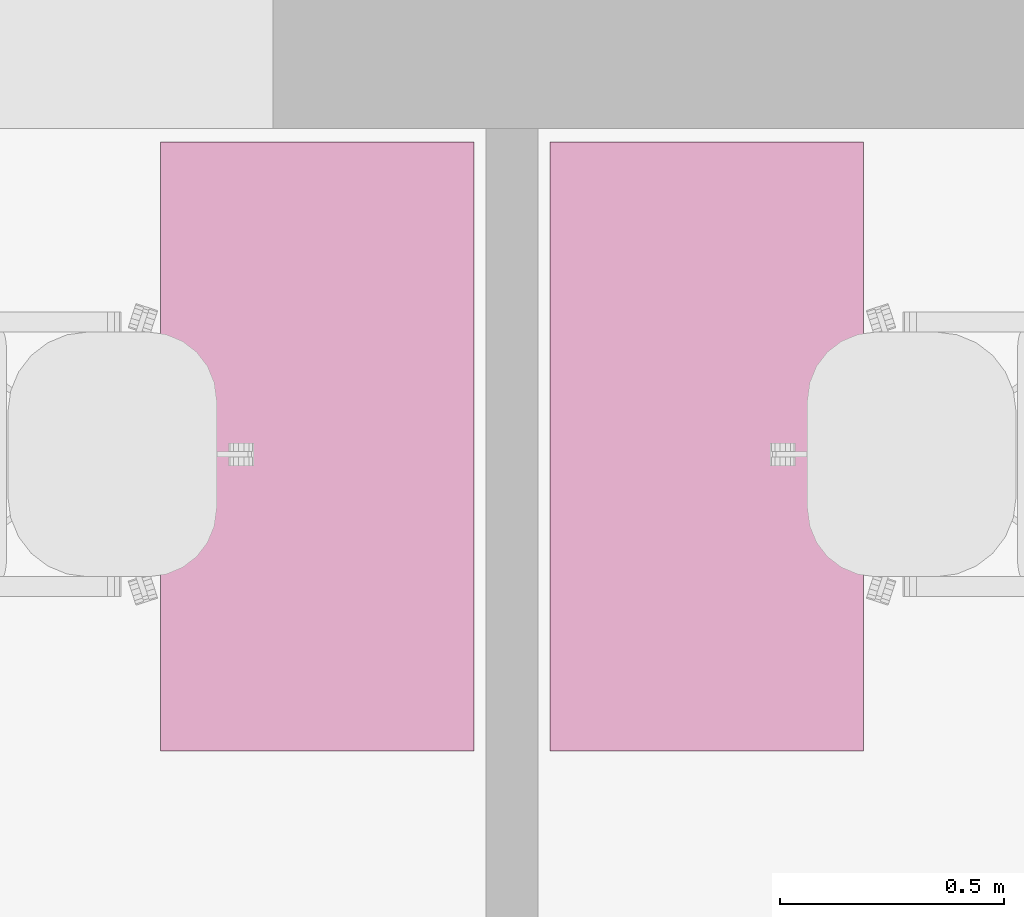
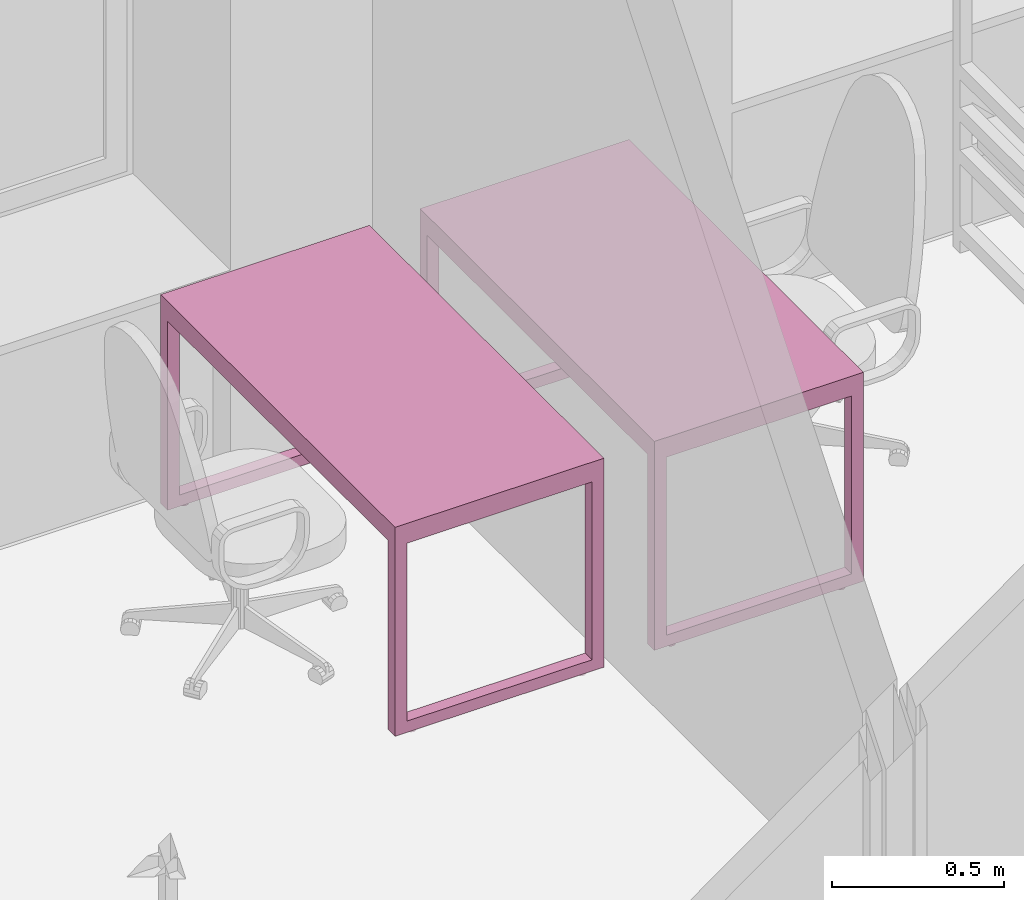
# One storey, part 36 of 46: 2 furnishings.
"""IFC2X3 building model written with IfcOpenShell, lengths in millimetres."""

from ifc_helpers import new_model, entity, si_unit, converted_unit, derived_unit, direction, frame, origin, place, context, subcontext, project, spatial, faceted_brep, source, transform, mapped, material, material_list, type_object, type_shapes, element, save


model = new_model("IFC2X3")

# Units and contexts
model_context = context("Model", 3, precision=0.01, world=origin(), true_north=direction((6.12303176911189e-17, 1.0)))
body_context = subcontext(model_context, "Body", "Model", "MODEL_VIEW")
ifc_project = project(units=[si_unit("LENGTHUNIT", "METRE", prefix="MILLI"), si_unit("AREAUNIT", "SQUARE_METRE"), si_unit("VOLUMEUNIT", "CUBIC_METRE"), converted_unit("PLANEANGLEUNIT", "DEGREE", entity("IfcRatioMeasure", 0.0174532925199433), si_unit("PLANEANGLEUNIT", "RADIAN"), dimensions=[0, 0, 0, 0, 0, 0, 0]), si_unit("MASSUNIT", "GRAM", prefix="KILO"), derived_unit("MASSDENSITYUNIT", [(si_unit("MASSUNIT", "GRAM", prefix="KILO"), 1), (si_unit("LENGTHUNIT", "METRE"), -3)]), si_unit("TIMEUNIT", "SECOND"), si_unit("FREQUENCYUNIT", "HERTZ"), si_unit("THERMODYNAMICTEMPERATUREUNIT", "DEGREE_CELSIUS"), derived_unit("THERMALTRANSMITTANCEUNIT", [(si_unit("MASSUNIT", "GRAM", prefix="KILO"), 1), (si_unit("THERMODYNAMICTEMPERATUREUNIT", "KELVIN"), -1), (si_unit("TIMEUNIT", "SECOND"), -3)]), derived_unit("VOLUMETRICFLOWRATEUNIT", [(si_unit("LENGTHUNIT", "METRE"), 3), (si_unit("TIMEUNIT", "SECOND"), -1)]), si_unit("ELECTRICCURRENTUNIT", "AMPERE"), si_unit("ELECTRICVOLTAGEUNIT", "VOLT"), si_unit("POWERUNIT", "WATT"), si_unit("FORCEUNIT", "NEWTON", prefix="KILO"), si_unit("ILLUMINANCEUNIT", "LUX"), si_unit("LUMINOUSFLUXUNIT", "LUMEN"), si_unit("LUMINOUSINTENSITYUNIT", "CANDELA"), derived_unit("USERDEFINED", [(si_unit("MASSUNIT", "GRAM", prefix="KILO"), -1), (si_unit("LENGTHUNIT", "METRE"), -2), (si_unit("TIMEUNIT", "SECOND"), 3), (si_unit("LUMINOUSFLUXUNIT", "LUMEN"), 1)]), derived_unit("LINEARVELOCITYUNIT", [(si_unit("LENGTHUNIT", "METRE"), 1), (si_unit("TIMEUNIT", "SECOND"), -1)]), si_unit("PRESSUREUNIT", "PASCAL"), derived_unit("USERDEFINED", [(si_unit("LENGTHUNIT", "METRE"), -2), (si_unit("MASSUNIT", "GRAM", prefix="KILO"), 1), (si_unit("TIMEUNIT", "SECOND"), -2)]), derived_unit("LINEARFORCEUNIT", [(si_unit("MASSUNIT", "GRAM", prefix="KILO"), 1), (si_unit("LENGTHUNIT", "METRE"), 1), (si_unit("TIMEUNIT", "SECOND"), -2), (si_unit("LENGTHUNIT", "METRE"), -1)]), derived_unit("PLANARFORCEUNIT", [(si_unit("MASSUNIT", "GRAM", prefix="KILO"), 1), (si_unit("LENGTHUNIT", "METRE"), 1), (si_unit("TIMEUNIT", "SECOND"), -2), (si_unit("LENGTHUNIT", "METRE"), -2)])], contexts=[model_context])

# Site, building, storey, space
site_placement = place(None, origin())
site = spatial("IfcSite", under=ifc_project, at=site_placement, Name="Default", CompositionType="ELEMENT")
building_placement = place(site_placement, origin())
building = spatial("IfcBuilding", under=site, at=building_placement, Name="SMA ARH", CompositionType="ELEMENT")
storey_placement = place(building_placement, frame((0.0, 0.0, 9910.0)))
storey = spatial("IfcBuildingStorey", under=building, at=storey_placement, Name="4 Korrus", CompositionType="ELEMENT", Elevation=9909.9999999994)
space_1_placement = place(storey_placement, origin())
space_1 = spatial("IfcSpace", under=storey, at=space_1_placement, Name="4-24", CompositionType="ELEMENT", InteriorOrExteriorSpace="INTERNAL")

# Furnishing
ifc_material = material(Name="<Unnamed>")
ifc_material_list_1 = material_list([ifc_material, ifc_material])
furniture_type_1 = type_object("IfcFurnitureType", Name="kirjutuslaud 1360x700mm:kirjutuslaud 1360x700mm", material=ifc_material_list_1)
shared_shape_1 = source(origin(), body_context, "Body", "Brep", [
    faceted_brep([(680.0, -350.0, 720.0), (680.0, 350.0, 720.0), (680.0, 350.0, 750.0), (680.0, -350.0, 750.0), (-680.0, -350.0, 720.0), (-680.0, -350.0, 750.0), (-680.0, 350.0, 750.0), (-680.0, 350.0, 720.0)], [[[0, 1, 2, 3]], [[4, 5, 6, 7]], [[1, 0, 4, 7]], [[2, 1, 7, 6]], [[3, 2, 6, 5]], [[0, 3, 5, 4]]]),
    faceted_brep([(-640.0, -310.0, 680.0), (-640.0, 310.0, 680.0), (-640.0, 310.0, 720.0), (-640.0, -310.0, 720.0), (-680.0, -350.0, 720.0), (-680.0, 350.0, 720.0), (-680.0, 350.0, 10.0), (-680.0, -350.0, 10.0), (-680.0, 310.0, 680.0), (-680.0, -310.0, 680.0), (-680.0, -310.0, 50.0), (-680.0, 310.0, 50.0), (-640.0, -350.0, 10.0), (-640.0, -350.0, 680.0), (640.0, -350.0, 680.0), (640.0, -350.0, 10.0), (680.0, -350.0, 10.0), (680.0, -350.0, 720.0), (-640.0, 350.0, 10.0), (680.0, 350.0, 720.0), (680.0, 350.0, 10.0), (640.0, 350.0, 10.0), (640.0, 350.0, 680.0), (-640.0, 350.0, 680.0), (640.0, 310.0, 720.0), (640.0, -310.0, 720.0), (-640.0, 310.0, 50.0), (-640.0, -310.0, 50.0), (640.0, -310.0, 680.0), (640.0, 310.0, 680.0), (680.0, 310.0, 680.0), (680.0, 310.0, 50.0), (680.0, -310.0, 50.0), (680.0, -310.0, 680.0), (640.0, -310.0, 50.0), (640.0, 310.0, 50.0)], [[[0, 1, 2, 3]], [[4, 5, 6, 7], [8, 9, 10, 11]], [[4, 7, 12, 13, 14, 15, 16, 17]], [[18, 12, 7, 6]], [[6, 5, 19, 20, 21, 22, 23, 18]], [[19, 5, 4, 17], [2, 24, 25, 3]], [[26, 1, 8, 11]], [[27, 26, 11, 10]], [[0, 27, 10, 9]], [[1, 0, 9, 8]], [[14, 13, 0, 28]], [[24, 2, 1, 29]], [[3, 25, 28, 0]], [[17, 16, 20, 19], [30, 31, 32, 33]], [[21, 15, 14, 28, 34, 35, 29, 22]], [[20, 16, 15, 21]], [[31, 30, 29, 35]], [[32, 31, 35, 34]], [[33, 32, 34, 28]], [[30, 33, 28, 29]], [[29, 28, 25, 24]], [[29, 1, 23, 22]], [[12, 18, 23, 1, 26, 27, 0, 13]]]),
    faceted_brep([(-663.729456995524, -270.466136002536, 0.0), (-659.847171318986, -269.955023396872, 0.0), (-655.964885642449, -270.466136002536, 0.0), (-652.347171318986, -271.964642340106, 0.0), (-649.240569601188, -274.348421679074, 0.0), (-646.85679026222, -277.455023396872, 0.0), (-645.35828392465, -281.072737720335, 0.0), (-644.847171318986, -284.955023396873, 0.0), (-645.35828392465, -288.83730907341, 0.0), (-646.85679026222, -292.455023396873, 0.0), (-649.240569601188, -295.561625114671, 0.0), (-652.347171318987, -297.945404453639, 0.0), (-655.964885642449, -299.443910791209, 0.0), (-659.847171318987, -299.955023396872, 0.0), (-663.729456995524, -299.443910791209, 0.0), (-667.347171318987, -297.945404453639, 0.0), (-670.453773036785, -295.561625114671, 0.0), (-672.837552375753, -292.455023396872, 0.0), (-674.336058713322, -288.83730907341, 0.0), (-674.847171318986, -284.955023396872, 0.0), (-674.336058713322, -281.072737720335, 0.0), (-672.837552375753, -277.455023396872, 0.0), (-670.453773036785, -274.348421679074, 0.0), (-667.347171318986, -271.964642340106, 0.0), (-655.964885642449, -299.443910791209, 10.0), (-652.347171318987, -297.945404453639, 10.0), (-649.240569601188, -295.561625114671, 10.0), (-646.85679026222, -292.455023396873, 10.0), (-645.35828392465, -288.83730907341, 10.0), (-644.847171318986, -284.955023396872, 10.0), (-645.35828392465, -281.072737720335, 10.0), (-646.85679026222, -277.455023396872, 10.0), (-649.240569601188, -274.348421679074, 10.0), (-652.347171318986, -271.964642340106, 10.0), (-655.964885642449, -270.466136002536, 10.0), (-659.847171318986, -269.955023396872, 10.0), (-663.729456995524, -270.466136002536, 10.0), (-667.347171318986, -271.964642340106, 10.0), (-670.453773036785, -274.348421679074, 10.0), (-672.837552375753, -277.455023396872, 10.0), (-674.336058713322, -281.072737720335, 10.0), (-674.847171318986, -284.955023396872, 10.0), (-674.336058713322, -288.83730907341, 10.0), (-672.837552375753, -292.455023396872, 10.0), (-670.453773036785, -295.561625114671, 10.0), (-667.347171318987, -297.945404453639, 10.0), (-663.729456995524, -299.443910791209, 10.0), (-659.847171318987, -299.955023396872, 10.0)], [[[0, 1, 2, 3, 4, 5, 6, 7, 8, 9, 10, 11, 12, 13, 14, 15, 16, 17, 18, 19, 20, 21, 22, 23]], [[24, 25, 26, 27, 28, 29, 30, 31, 32, 33, 34, 35, 36, 37, 38, 39, 40, 41, 42, 43, 44, 45, 46, 47]], [[18, 42, 41, 19]], [[17, 43, 42, 18]], [[45, 44, 16, 15]], [[17, 16, 44, 43]], [[46, 45, 15, 14]], [[47, 46, 14, 13]], [[12, 24, 47, 13]], [[11, 25, 24, 12]], [[27, 26, 10, 9]], [[11, 10, 26, 25]], [[28, 27, 9, 8]], [[29, 28, 8, 7]], [[6, 30, 29, 7]], [[5, 31, 30, 6]], [[33, 32, 4, 3]], [[5, 4, 32, 31]], [[34, 33, 3, 2]], [[35, 34, 2, 1]], [[0, 36, 35, 1]], [[23, 37, 36, 0]], [[39, 38, 22, 21]], [[23, 22, 38, 37]], [[40, 39, 21, 20]], [[41, 40, 20, 19]]]),
    faceted_brep([(-655.964885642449, 270.466136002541, 10.0), (-652.347171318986, 271.964642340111, 10.0), (-649.240569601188, 274.348421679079, 10.0), (-646.85679026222, 277.455023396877, 10.0), (-645.35828392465, 281.07273772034, 10.0), (-644.847171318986, 284.955023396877, 10.0), (-645.35828392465, 288.837309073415, 10.0), (-646.85679026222, 292.455023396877, 10.0), (-649.240569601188, 295.561625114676, 10.0), (-652.347171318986, 297.945404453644, 10.0), (-655.964885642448, 299.443910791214, 10.0), (-659.847171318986, 299.955023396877, 10.0), (-663.729456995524, 299.443910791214, 10.0), (-667.347171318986, 297.945404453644, 10.0), (-670.453773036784, 295.561625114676, 10.0), (-672.837552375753, 292.455023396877, 10.0), (-674.336058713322, 288.837309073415, 10.0), (-674.847171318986, 284.955023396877, 10.0), (-674.336058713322, 281.07273772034, 10.0), (-672.837552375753, 277.455023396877, 10.0), (-670.453773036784, 274.348421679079, 10.0), (-667.347171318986, 271.964642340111, 10.0), (-663.729456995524, 270.466136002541, 10.0), (-659.847171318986, 269.955023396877, 10.0), (-655.964885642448, 299.443910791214, 0.0), (-652.347171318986, 297.945404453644, 0.0), (-649.240569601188, 295.561625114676, 0.0), (-646.85679026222, 292.455023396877, 0.0), (-645.35828392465, 288.837309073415, 0.0), (-644.847171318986, 284.955023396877, 0.0), (-645.35828392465, 281.07273772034, 0.0), (-646.85679026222, 277.455023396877, 0.0), (-649.240569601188, 274.348421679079, 0.0), (-652.347171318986, 271.964642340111, 0.0), (-655.964885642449, 270.466136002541, 0.0), (-659.847171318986, 269.955023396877, 0.0), (-663.729456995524, 270.466136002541, 0.0), (-667.347171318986, 271.964642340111, 0.0), (-670.453773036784, 274.348421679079, 0.0), (-672.837552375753, 277.455023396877, 0.0), (-674.336058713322, 281.07273772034, 0.0), (-674.847171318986, 284.955023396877, 0.0), (-674.336058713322, 288.837309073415, 0.0), (-672.837552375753, 292.455023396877, 0.0), (-670.453773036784, 295.561625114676, 0.0), (-667.347171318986, 297.945404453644, 0.0), (-663.729456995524, 299.443910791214, 0.0), (-659.847171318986, 299.955023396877, 0.0)], [[[0, 1, 2, 3, 4, 5, 6, 7, 8, 9, 10, 11, 12, 13, 14, 15, 16, 17, 18, 19, 20, 21, 22, 23]], [[24, 25, 26, 27, 28, 29, 30, 31, 32, 33, 34, 35, 36, 37, 38, 39, 40, 41, 42, 43, 44, 45, 46, 47]], [[40, 18, 17, 41]], [[39, 19, 18, 40]], [[21, 20, 38, 37]], [[39, 38, 20, 19]], [[22, 21, 37, 36]], [[23, 22, 36, 35]], [[34, 0, 23, 35]], [[33, 1, 0, 34]], [[3, 2, 32, 31]], [[33, 32, 2, 1]], [[4, 3, 31, 30]], [[5, 4, 30, 29]], [[28, 6, 5, 29]], [[27, 7, 6, 28]], [[9, 8, 26, 25]], [[27, 26, 8, 7]], [[10, 9, 25, 24]], [[11, 10, 24, 47]], [[46, 12, 11, 47]], [[45, 13, 12, 46]], [[15, 14, 44, 43]], [[45, 44, 14, 13]], [[16, 15, 43, 42]], [[17, 16, 42, 41]]]),
    faceted_brep([(656.270543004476, -270.466136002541, 0.0), (660.152828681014, -269.955023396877, 0.0), (664.035114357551, -270.466136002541, 0.0), (667.652828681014, -271.96464234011, 0.0), (670.759430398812, -274.348421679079, 0.0), (673.14320973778, -277.455023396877, 0.0), (674.64171607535, -281.072737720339, 0.0), (675.152828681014, -284.955023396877, 0.0), (674.64171607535, -288.837309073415, 0.0), (673.14320973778, -292.455023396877, 0.0), (670.759430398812, -295.561625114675, 0.0), (667.652828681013, -297.945404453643, 0.0), (664.035114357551, -299.443910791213, 0.0), (660.152828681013, -299.955023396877, 0.0), (656.270543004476, -299.443910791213, 0.0), (652.652828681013, -297.945404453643, 0.0), (649.546226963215, -295.561625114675, 0.0), (647.162447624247, -292.455023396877, 0.0), (645.663941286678, -288.837309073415, 0.0), (645.152828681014, -284.955023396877, 0.0), (645.663941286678, -281.072737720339, 0.0), (647.162447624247, -277.455023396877, 0.0), (649.546226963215, -274.348421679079, 0.0), (652.652828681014, -271.96464234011, 0.0), (664.035114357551, -299.443910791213, 10.0), (667.652828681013, -297.945404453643, 10.0), (670.759430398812, -295.561625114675, 10.0), (673.14320973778, -292.455023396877, 10.0), (674.64171607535, -288.837309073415, 10.0), (675.152828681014, -284.955023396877, 10.0), (674.64171607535, -281.072737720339, 10.0), (673.14320973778, -277.455023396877, 10.0), (670.759430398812, -274.348421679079, 10.0), (667.652828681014, -271.96464234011, 10.0), (664.035114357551, -270.466136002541, 10.0), (660.152828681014, -269.955023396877, 10.0), (656.270543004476, -270.466136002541, 10.0), (652.652828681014, -271.96464234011, 10.0), (649.546226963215, -274.348421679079, 10.0), (647.162447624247, -277.455023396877, 10.0), (645.663941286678, -281.072737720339, 10.0), (645.152828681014, -284.955023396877, 10.0), (645.663941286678, -288.837309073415, 10.0), (647.162447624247, -292.455023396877, 10.0), (649.546226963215, -295.561625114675, 10.0), (652.652828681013, -297.945404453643, 10.0), (656.270543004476, -299.443910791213, 10.0), (660.152828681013, -299.955023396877, 10.0)], [[[0, 1, 2, 3, 4, 5, 6, 7, 8, 9, 10, 11, 12, 13, 14, 15, 16, 17, 18, 19, 20, 21, 22, 23]], [[24, 25, 26, 27, 28, 29, 30, 31, 32, 33, 34, 35, 36, 37, 38, 39, 40, 41, 42, 43, 44, 45, 46, 47]], [[18, 42, 41, 19]], [[17, 43, 42, 18]], [[45, 44, 16, 15]], [[17, 16, 44, 43]], [[46, 45, 15, 14]], [[47, 46, 14, 13]], [[12, 24, 47, 13]], [[11, 25, 24, 12]], [[27, 26, 10, 9]], [[11, 10, 26, 25]], [[28, 27, 9, 8]], [[29, 28, 8, 7]], [[6, 30, 29, 7]], [[5, 31, 30, 6]], [[33, 32, 4, 3]], [[5, 4, 32, 31]], [[34, 33, 3, 2]], [[35, 34, 2, 1]], [[0, 36, 35, 1]], [[23, 37, 36, 0]], [[39, 38, 22, 21]], [[23, 22, 38, 37]], [[40, 39, 21, 20]], [[41, 40, 20, 19]]]),
    faceted_brep([(664.035114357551, 270.466136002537, 10.0), (667.652828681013, 271.964642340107, 10.0), (670.759430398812, 274.348421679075, 10.0), (673.14320973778, 277.455023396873, 10.0), (674.64171607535, 281.072737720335, 10.0), (675.152828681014, 284.955023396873, 10.0), (674.64171607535, 288.837309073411, 10.0), (673.14320973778, 292.455023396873, 10.0), (670.759430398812, 295.561625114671, 10.0), (667.652828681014, 297.94540445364, 10.0), (664.035114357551, 299.443910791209, 10.0), (660.152828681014, 299.955023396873, 10.0), (656.270543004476, 299.443910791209, 10.0), (652.652828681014, 297.94540445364, 10.0), (649.546226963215, 295.561625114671, 10.0), (647.162447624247, 292.455023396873, 10.0), (645.663941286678, 288.837309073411, 10.0), (645.152828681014, 284.955023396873, 10.0), (645.663941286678, 281.072737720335, 10.0), (647.162447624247, 277.455023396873, 10.0), (649.546226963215, 274.348421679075, 10.0), (652.652828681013, 271.964642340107, 10.0), (656.270543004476, 270.466136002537, 10.0), (660.152828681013, 269.955023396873, 10.0), (664.035114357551, 299.443910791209, 0.0), (667.652828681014, 297.94540445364, 0.0), (670.759430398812, 295.561625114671, 0.0), (673.14320973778, 292.455023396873, 0.0), (674.64171607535, 288.837309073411, 0.0), (675.152828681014, 284.955023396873, 0.0), (674.64171607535, 281.072737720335, 0.0), (673.14320973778, 277.455023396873, 0.0), (670.759430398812, 274.348421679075, 0.0), (667.652828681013, 271.964642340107, 0.0), (664.035114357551, 270.466136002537, 0.0), (660.152828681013, 269.955023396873, 0.0), (656.270543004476, 270.466136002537, 0.0), (652.652828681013, 271.964642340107, 0.0), (649.546226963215, 274.348421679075, 0.0), (647.162447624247, 277.455023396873, 0.0), (645.663941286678, 281.072737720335, 0.0), (645.152828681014, 284.955023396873, 0.0), (645.663941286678, 288.837309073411, 0.0), (647.162447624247, 292.455023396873, 0.0), (649.546226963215, 295.561625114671, 0.0), (652.652828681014, 297.94540445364, 0.0), (656.270543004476, 299.443910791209, 0.0), (660.152828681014, 299.955023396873, 0.0)], [[[0, 1, 2, 3, 4, 5, 6, 7, 8, 9, 10, 11, 12, 13, 14, 15, 16, 17, 18, 19, 20, 21, 22, 23]], [[24, 25, 26, 27, 28, 29, 30, 31, 32, 33, 34, 35, 36, 37, 38, 39, 40, 41, 42, 43, 44, 45, 46, 47]], [[40, 18, 17, 41]], [[39, 19, 18, 40]], [[21, 20, 38, 37]], [[39, 38, 20, 19]], [[22, 21, 37, 36]], [[23, 22, 36, 35]], [[34, 0, 23, 35]], [[33, 1, 0, 34]], [[3, 2, 32, 31]], [[33, 32, 2, 1]], [[4, 3, 31, 30]], [[5, 4, 30, 29]], [[28, 6, 5, 29]], [[27, 7, 6, 28]], [[9, 8, 26, 25]], [[27, 26, 8, 7]], [[10, 9, 25, 24]], [[11, 10, 24, 47]], [[46, 12, 11, 47]], [[45, 13, 12, 46]], [[15, 14, 44, 43]], [[45, 44, 14, 13]], [[16, 15, 43, 42]], [[17, 16, 42, 41]]]),
])
type_shapes(furniture_type_1, [shared_shape_1])
furnishing_1_placement = place(space_1_placement, frame((19678.0, 11790.0, 0.0), z_axis=(0.0, 0.0, 1.0), x_axis=(0.0, 1.0, 0.0)))
element("IfcFurnishingElement", 1, at=furnishing_1_placement, inside=space_1, type_object=furniture_type_1, Name="kirjutuslaud 1360x700mm:kirjutuslaud 1360x700mm", ObjectType="kirjutuslaud 1360x700mm:kirjutuslaud 1360x700mm", context=body_context, shape_type="MappedRepresentation", body=[
    mapped(shared_shape_1, transform((0.0, 0.0, 0.0), scale=1.0)),
])

# Space
space_2_placement = place(storey_placement, origin())
space_2 = spatial("IfcSpace", under=storey, at=space_2_placement, Name="4-23", CompositionType="ELEMENT", InteriorOrExteriorSpace="INTERNAL")

# Furnishing
ifc_material_list_2 = material_list([ifc_material, ifc_material])
furniture_type_2 = type_object("IfcFurnitureType", Name="kirjutuslaud 1360x700mm:kirjutuslaud 1360x700mm", material=ifc_material_list_2)
shared_shape_2 = source(origin(), body_context, "Body", "Brep", [
    faceted_brep([(680.0, 350.0, 720.0), (680.0, 350.0, 750.0), (680.0, -350.0, 750.0), (680.0, -350.0, 720.0), (-680.0, 350.0, 720.0), (-680.0, -350.0, 720.0), (-680.0, -350.0, 750.0), (-680.0, 350.0, 750.0)], [[[0, 1, 2, 3]], [[4, 5, 6, 7]], [[3, 5, 4, 0]], [[2, 6, 5, 3]], [[1, 7, 6, 2]], [[0, 4, 7, 1]]]),
    faceted_brep([(-640.0, 310.0, 680.0), (-640.0, 310.0, 720.0), (-640.0, -310.0, 720.0), (-640.0, -310.0, 680.0), (-680.0, 350.0, 720.0), (-680.0, 350.0, 10.0), (-680.0, -350.0, 10.0), (-680.0, -350.0, 720.0), (-680.0, -310.0, 680.0), (-680.0, -310.0, 50.0), (-680.0, 310.0, 50.0), (-680.0, 310.0, 680.0), (680.0, 350.0, 720.0), (680.0, 350.0, 10.0), (640.0, 350.0, 10.0), (640.0, 350.0, 680.0), (-640.0, 350.0, 680.0), (-640.0, 350.0, 10.0), (-640.0, -350.0, 10.0), (-640.0, -350.0, 680.0), (640.0, -350.0, 680.0), (640.0, -350.0, 10.0), (680.0, -350.0, 10.0), (680.0, -350.0, 720.0), (640.0, 310.0, 720.0), (640.0, -310.0, 720.0), (-640.0, -310.0, 50.0), (-640.0, 310.0, 50.0), (640.0, -310.0, 680.0), (640.0, 310.0, 680.0), (680.0, -310.0, 680.0), (680.0, 310.0, 680.0), (680.0, 310.0, 50.0), (680.0, -310.0, 50.0), (640.0, -310.0, 50.0), (640.0, 310.0, 50.0)], [[[0, 1, 2, 3]], [[4, 5, 6, 7], [8, 9, 10, 11]], [[4, 12, 13, 14, 15, 16, 17, 5]], [[18, 6, 5, 17]], [[6, 18, 19, 20, 21, 22, 23, 7]], [[2, 1, 24, 25], [23, 12, 4, 7]], [[26, 9, 8, 3]], [[27, 10, 9, 26]], [[0, 11, 10, 27]], [[3, 8, 11, 0]], [[28, 20, 19, 3]], [[25, 28, 3, 2]], [[1, 0, 29, 24]], [[12, 23, 22, 13], [30, 31, 32, 33]], [[21, 20, 28, 34, 35, 29, 15, 14]], [[22, 21, 14, 13]], [[33, 34, 28, 30]], [[32, 35, 34, 33]], [[31, 29, 35, 32]], [[30, 28, 29, 31]], [[28, 25, 24, 29]], [[15, 29, 0, 16]], [[17, 16, 0, 27, 26, 3, 19, 18]]], outer=[[True], [True, False], [True], [True], [True], [False, True], [True], [True], [True], [True], [True], [True], [True], [True, False], [True], [True], [True], [True], [True], [True], [True], [True], [True]]),
    faceted_brep([(-655.964885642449, 270.466136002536, 0.0), (-659.847171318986, 269.955023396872, 0.0), (-663.729456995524, 270.466136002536, 0.0), (-667.347171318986, 271.964642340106, 0.0), (-670.453773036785, 274.348421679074, 0.0), (-672.837552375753, 277.455023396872, 0.0), (-674.336058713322, 281.072737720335, 0.0), (-674.847171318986, 284.955023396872, 0.0), (-674.336058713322, 288.83730907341, 0.0), (-672.837552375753, 292.455023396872, 0.0), (-670.453773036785, 295.561625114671, 0.0), (-667.347171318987, 297.945404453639, 0.0), (-663.729456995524, 299.443910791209, 0.0), (-659.847171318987, 299.955023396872, 0.0), (-655.964885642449, 299.443910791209, 0.0), (-652.347171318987, 297.945404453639, 0.0), (-649.240569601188, 295.561625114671, 0.0), (-646.85679026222, 292.455023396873, 0.0), (-645.35828392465, 288.83730907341, 0.0), (-644.847171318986, 284.955023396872, 0.0), (-645.35828392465, 281.072737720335, 0.0), (-646.85679026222, 277.455023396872, 0.0), (-649.240569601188, 274.348421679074, 0.0), (-652.347171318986, 271.964642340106, 0.0), (-649.240569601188, 295.561625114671, 10.0), (-652.347171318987, 297.945404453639, 10.0), (-655.964885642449, 299.443910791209, 10.0), (-659.847171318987, 299.955023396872, 10.0), (-663.729456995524, 299.443910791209, 10.0), (-667.347171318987, 297.945404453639, 10.0), (-670.453773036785, 295.561625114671, 10.0), (-672.837552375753, 292.455023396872, 10.0), (-674.336058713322, 288.83730907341, 10.0), (-674.847171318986, 284.955023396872, 10.0), (-674.336058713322, 281.072737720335, 10.0), (-672.837552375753, 277.455023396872, 10.0), (-670.453773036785, 274.348421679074, 10.0), (-667.347171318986, 271.964642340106, 10.0), (-663.729456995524, 270.466136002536, 10.0), (-659.847171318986, 269.955023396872, 10.0), (-655.964885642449, 270.466136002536, 10.0), (-652.347171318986, 271.964642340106, 10.0), (-649.240569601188, 274.348421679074, 10.0), (-646.85679026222, 277.455023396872, 10.0), (-645.35828392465, 281.072737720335, 10.0), (-644.847171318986, 284.955023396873, 10.0), (-645.35828392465, 288.83730907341, 10.0), (-646.85679026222, 292.455023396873, 10.0)], [[[0, 1, 2, 3, 4, 5, 6, 7, 8, 9, 10, 11, 12, 13, 14, 15, 16, 17, 18, 19, 20, 21, 22, 23]], [[24, 25, 26, 27, 28, 29, 30, 31, 32, 33, 34, 35, 36, 37, 38, 39, 40, 41, 42, 43, 44, 45, 46, 47]], [[7, 33, 32, 8]], [[8, 32, 31, 9]], [[11, 10, 30, 29]], [[30, 10, 9, 31]], [[12, 11, 29, 28]], [[12, 28, 27, 13]], [[13, 27, 26, 14]], [[14, 26, 25, 15]], [[17, 16, 24, 47]], [[24, 16, 15, 25]], [[18, 17, 47, 46]], [[18, 46, 45, 19]], [[19, 45, 44, 20]], [[20, 44, 43, 21]], [[23, 22, 42, 41]], [[42, 22, 21, 43]], [[0, 23, 41, 40]], [[0, 40, 39, 1]], [[1, 39, 38, 2]], [[2, 38, 37, 3]], [[5, 4, 36, 35]], [[36, 4, 3, 37]], [[6, 5, 35, 34]], [[6, 34, 33, 7]]]),
    faceted_brep([(-649.240569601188, -274.348421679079, 10.0), (-652.347171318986, -271.964642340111, 10.0), (-655.964885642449, -270.466136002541, 10.0), (-659.847171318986, -269.955023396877, 10.0), (-663.729456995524, -270.466136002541, 10.0), (-667.347171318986, -271.964642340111, 10.0), (-670.453773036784, -274.348421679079, 10.0), (-672.837552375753, -277.455023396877, 10.0), (-674.336058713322, -281.07273772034, 10.0), (-674.847171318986, -284.955023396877, 10.0), (-674.336058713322, -288.837309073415, 10.0), (-672.837552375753, -292.455023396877, 10.0), (-670.453773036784, -295.561625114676, 10.0), (-667.347171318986, -297.945404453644, 10.0), (-663.729456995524, -299.443910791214, 10.0), (-659.847171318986, -299.955023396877, 10.0), (-655.964885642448, -299.443910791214, 10.0), (-652.347171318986, -297.945404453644, 10.0), (-649.240569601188, -295.561625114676, 10.0), (-646.85679026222, -292.455023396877, 10.0), (-645.35828392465, -288.837309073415, 10.0), (-644.847171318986, -284.955023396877, 10.0), (-645.35828392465, -281.07273772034, 10.0), (-646.85679026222, -277.455023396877, 10.0), (-659.847171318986, -299.955023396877, 0.0), (-663.729456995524, -299.443910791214, 0.0), (-667.347171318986, -297.945404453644, 0.0), (-670.453773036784, -295.561625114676, 0.0), (-672.837552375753, -292.455023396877, 0.0), (-674.336058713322, -288.837309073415, 0.0), (-674.847171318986, -284.955023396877, 0.0), (-674.336058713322, -281.07273772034, 0.0), (-672.837552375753, -277.455023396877, 0.0), (-670.453773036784, -274.348421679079, 0.0), (-667.347171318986, -271.964642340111, 0.0), (-663.729456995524, -270.466136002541, 0.0), (-659.847171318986, -269.955023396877, 0.0), (-655.964885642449, -270.466136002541, 0.0), (-652.347171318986, -271.964642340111, 0.0), (-649.240569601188, -274.348421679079, 0.0), (-646.85679026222, -277.455023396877, 0.0), (-645.35828392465, -281.07273772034, 0.0), (-644.847171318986, -284.955023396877, 0.0), (-645.35828392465, -288.837309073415, 0.0), (-646.85679026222, -292.455023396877, 0.0), (-649.240569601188, -295.561625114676, 0.0), (-652.347171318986, -297.945404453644, 0.0), (-655.964885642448, -299.443910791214, 0.0)], [[[0, 1, 2, 3, 4, 5, 6, 7, 8, 9, 10, 11, 12, 13, 14, 15, 16, 17, 18, 19, 20, 21, 22, 23]], [[24, 25, 26, 27, 28, 29, 30, 31, 32, 33, 34, 35, 36, 37, 38, 39, 40, 41, 42, 43, 44, 45, 46, 47]], [[30, 9, 8, 31]], [[31, 8, 7, 32]], [[34, 33, 6, 5]], [[6, 33, 32, 7]], [[35, 34, 5, 4]], [[35, 4, 3, 36]], [[36, 3, 2, 37]], [[37, 2, 1, 38]], [[40, 39, 0, 23]], [[0, 39, 38, 1]], [[41, 40, 23, 22]], [[41, 22, 21, 42]], [[42, 21, 20, 43]], [[43, 20, 19, 44]], [[46, 45, 18, 17]], [[18, 45, 44, 19]], [[47, 46, 17, 16]], [[47, 16, 15, 24]], [[24, 15, 14, 25]], [[25, 14, 13, 26]], [[28, 27, 12, 11]], [[12, 27, 26, 13]], [[29, 28, 11, 10]], [[29, 10, 9, 30]]]),
    faceted_brep([(664.035114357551, 270.466136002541, 0.0), (660.152828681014, 269.955023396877, 0.0), (656.270543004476, 270.466136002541, 0.0), (652.652828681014, 271.96464234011, 0.0), (649.546226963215, 274.348421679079, 0.0), (647.162447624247, 277.455023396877, 0.0), (645.663941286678, 281.072737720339, 0.0), (645.152828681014, 284.955023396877, 0.0), (645.663941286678, 288.837309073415, 0.0), (647.162447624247, 292.455023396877, 0.0), (649.546226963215, 295.561625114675, 0.0), (652.652828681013, 297.945404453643, 0.0), (656.270543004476, 299.443910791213, 0.0), (660.152828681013, 299.955023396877, 0.0), (664.035114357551, 299.443910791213, 0.0), (667.652828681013, 297.945404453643, 0.0), (670.759430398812, 295.561625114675, 0.0), (673.14320973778, 292.455023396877, 0.0), (674.64171607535, 288.837309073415, 0.0), (675.152828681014, 284.955023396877, 0.0), (674.64171607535, 281.072737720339, 0.0), (673.14320973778, 277.455023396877, 0.0), (670.759430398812, 274.348421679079, 0.0), (667.652828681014, 271.96464234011, 0.0), (670.759430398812, 295.561625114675, 10.0), (667.652828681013, 297.945404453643, 10.0), (664.035114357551, 299.443910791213, 10.0), (660.152828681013, 299.955023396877, 10.0), (656.270543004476, 299.443910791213, 10.0), (652.652828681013, 297.945404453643, 10.0), (649.546226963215, 295.561625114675, 10.0), (647.162447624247, 292.455023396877, 10.0), (645.663941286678, 288.837309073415, 10.0), (645.152828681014, 284.955023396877, 10.0), (645.663941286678, 281.072737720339, 10.0), (647.162447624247, 277.455023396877, 10.0), (649.546226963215, 274.348421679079, 10.0), (652.652828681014, 271.96464234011, 10.0), (656.270543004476, 270.466136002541, 10.0), (660.152828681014, 269.955023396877, 10.0), (664.035114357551, 270.466136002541, 10.0), (667.652828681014, 271.96464234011, 10.0), (670.759430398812, 274.348421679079, 10.0), (673.14320973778, 277.455023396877, 10.0), (674.64171607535, 281.072737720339, 10.0), (675.152828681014, 284.955023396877, 10.0), (674.64171607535, 288.837309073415, 10.0), (673.14320973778, 292.455023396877, 10.0)], [[[0, 1, 2, 3, 4, 5, 6, 7, 8, 9, 10, 11, 12, 13, 14, 15, 16, 17, 18, 19, 20, 21, 22, 23]], [[24, 25, 26, 27, 28, 29, 30, 31, 32, 33, 34, 35, 36, 37, 38, 39, 40, 41, 42, 43, 44, 45, 46, 47]], [[7, 33, 32, 8]], [[8, 32, 31, 9]], [[11, 10, 30, 29]], [[30, 10, 9, 31]], [[12, 11, 29, 28]], [[12, 28, 27, 13]], [[13, 27, 26, 14]], [[14, 26, 25, 15]], [[17, 16, 24, 47]], [[24, 16, 15, 25]], [[18, 17, 47, 46]], [[18, 46, 45, 19]], [[19, 45, 44, 20]], [[20, 44, 43, 21]], [[23, 22, 42, 41]], [[42, 22, 21, 43]], [[0, 23, 41, 40]], [[0, 40, 39, 1]], [[1, 39, 38, 2]], [[2, 38, 37, 3]], [[5, 4, 36, 35]], [[36, 4, 3, 37]], [[6, 5, 35, 34]], [[6, 34, 33, 7]]]),
    faceted_brep([(670.759430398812, -274.348421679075, 10.0), (667.652828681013, -271.964642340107, 10.0), (664.035114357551, -270.466136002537, 10.0), (660.152828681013, -269.955023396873, 10.0), (656.270543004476, -270.466136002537, 10.0), (652.652828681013, -271.964642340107, 10.0), (649.546226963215, -274.348421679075, 10.0), (647.162447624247, -277.455023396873, 10.0), (645.663941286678, -281.072737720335, 10.0), (645.152828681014, -284.955023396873, 10.0), (645.663941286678, -288.837309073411, 10.0), (647.162447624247, -292.455023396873, 10.0), (649.546226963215, -295.561625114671, 10.0), (652.652828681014, -297.94540445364, 10.0), (656.270543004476, -299.443910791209, 10.0), (660.152828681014, -299.955023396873, 10.0), (664.035114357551, -299.443910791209, 10.0), (667.652828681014, -297.94540445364, 10.0), (670.759430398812, -295.561625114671, 10.0), (673.14320973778, -292.455023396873, 10.0), (674.64171607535, -288.837309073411, 10.0), (675.152828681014, -284.955023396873, 10.0), (674.64171607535, -281.072737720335, 10.0), (673.14320973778, -277.455023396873, 10.0), (660.152828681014, -299.955023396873, 0.0), (656.270543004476, -299.443910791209, 0.0), (652.652828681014, -297.94540445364, 0.0), (649.546226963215, -295.561625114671, 0.0), (647.162447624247, -292.455023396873, 0.0), (645.663941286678, -288.837309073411, 0.0), (645.152828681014, -284.955023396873, 0.0), (645.663941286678, -281.072737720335, 0.0), (647.162447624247, -277.455023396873, 0.0), (649.546226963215, -274.348421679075, 0.0), (652.652828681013, -271.964642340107, 0.0), (656.270543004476, -270.466136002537, 0.0), (660.152828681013, -269.955023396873, 0.0), (664.035114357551, -270.466136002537, 0.0), (667.652828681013, -271.964642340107, 0.0), (670.759430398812, -274.348421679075, 0.0), (673.14320973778, -277.455023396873, 0.0), (674.64171607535, -281.072737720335, 0.0), (675.152828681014, -284.955023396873, 0.0), (674.64171607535, -288.837309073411, 0.0), (673.14320973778, -292.455023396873, 0.0), (670.759430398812, -295.561625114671, 0.0), (667.652828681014, -297.94540445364, 0.0), (664.035114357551, -299.443910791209, 0.0)], [[[0, 1, 2, 3, 4, 5, 6, 7, 8, 9, 10, 11, 12, 13, 14, 15, 16, 17, 18, 19, 20, 21, 22, 23]], [[24, 25, 26, 27, 28, 29, 30, 31, 32, 33, 34, 35, 36, 37, 38, 39, 40, 41, 42, 43, 44, 45, 46, 47]], [[30, 9, 8, 31]], [[31, 8, 7, 32]], [[34, 33, 6, 5]], [[6, 33, 32, 7]], [[35, 34, 5, 4]], [[35, 4, 3, 36]], [[36, 3, 2, 37]], [[37, 2, 1, 38]], [[40, 39, 0, 23]], [[0, 39, 38, 1]], [[41, 40, 23, 22]], [[41, 22, 21, 42]], [[42, 21, 20, 43]], [[43, 20, 19, 44]], [[46, 45, 18, 17]], [[18, 45, 44, 19]], [[47, 46, 17, 16]], [[47, 16, 15, 24]], [[24, 15, 14, 25]], [[25, 14, 13, 26]], [[28, 27, 12, 11]], [[12, 27, 26, 13]], [[29, 28, 11, 10]], [[29, 10, 9, 30]]]),
])
type_shapes(furniture_type_2, [shared_shape_2])
furnishing_2_placement = place(space_2_placement, frame((18809.0, 11790.0, 0.0), z_axis=(0.0, 0.0, 1.0), x_axis=(0.0, 1.0, 0.0)))
element("IfcFurnishingElement", 2, at=furnishing_2_placement, inside=space_2, type_object=furniture_type_2, Name="kirjutuslaud 1360x700mm:kirjutuslaud 1360x700mm", ObjectType="kirjutuslaud 1360x700mm:kirjutuslaud 1360x700mm", context=body_context, shape_type="MappedRepresentation", body=[
    mapped(shared_shape_2, transform((0.0, 0.0, 0.0), scale=1.0)),
])

save(model, "model.ifc")
